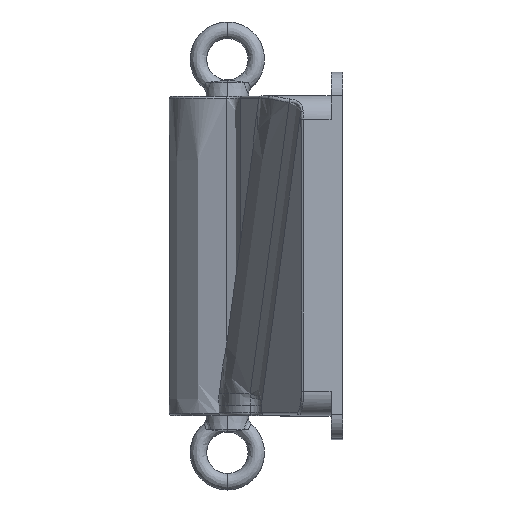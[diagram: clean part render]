
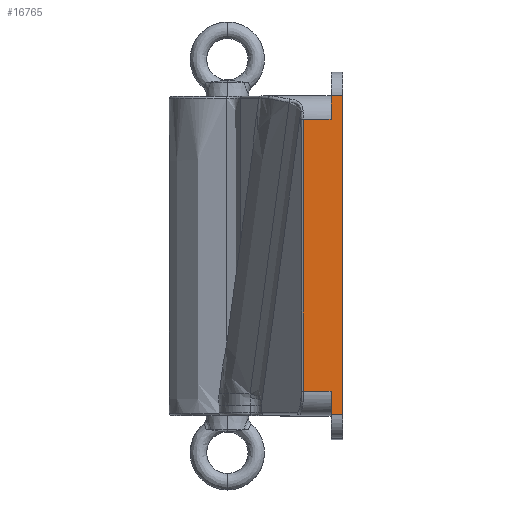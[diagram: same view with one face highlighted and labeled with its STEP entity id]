
A CAD part, top view. The second image highlights one B-rep face of the part: STEP entity #16765.
In plain terms, the highlighted planar face has unit normal (0, 0, 1).
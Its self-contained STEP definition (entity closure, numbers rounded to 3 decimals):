
#16148=CARTESIAN_POINT('Vertex',(-1753.252,390.,325.872)) ;
#16175=CARTESIAN_POINT('Vertex',(-1753.105,160.,325.872)) ;
#16178=CARTESIAN_POINT('Line Origine',(-1753.178,275.,325.872)) ;
#16562=CARTESIAN_POINT('Line Origine',(-1729.792,400.,325.872)) ;
#16566=CARTESIAN_POINT('Vertex',(-1729.792,410.,325.872)) ;
#16568=CARTESIAN_POINT('Vertex',(-1729.792,390.,325.872)) ;
#16654=CARTESIAN_POINT('Line Origine',(-1835.902,390.,325.872)) ;
#16717=CARTESIAN_POINT('Axis2P3D Location',(-1719.792,410.,325.872)) ;
#16722=CARTESIAN_POINT('Line Origine',(-1741.449,160.,325.872)) ;
#16726=CARTESIAN_POINT('Vertex',(-1729.792,160.,325.872)) ;
#16729=CARTESIAN_POINT('Line Origine',(-1729.792,150.,325.872)) ;
#16733=CARTESIAN_POINT('Vertex',(-1729.792,140.,325.872)) ;
#16736=CARTESIAN_POINT('Line Origine',(-1724.792,140.,325.872)) ;
#16740=CARTESIAN_POINT('Vertex',(-1719.792,140.,325.872)) ;
#16743=CARTESIAN_POINT('Line Origine',(-1719.792,275.,325.872)) ;
#16747=CARTESIAN_POINT('Vertex',(-1719.792,410.,325.872)) ;
#16750=CARTESIAN_POINT('Line Origine',(-1724.792,410.,325.872)) ;
#16180=VECTOR('Line Direction',#16179,1.) ;
#16564=VECTOR('Line Direction',#16563,1.) ;
#16656=VECTOR('Line Direction',#16655,1.) ;
#16724=VECTOR('Line Direction',#16723,1.) ;
#16731=VECTOR('Line Direction',#16730,1.) ;
#16738=VECTOR('Line Direction',#16737,1.) ;
#16745=VECTOR('Line Direction',#16744,1.) ;
#16752=VECTOR('Line Direction',#16751,1.) ;
#16179=DIRECTION('Vector Direction',(0.001,-1.,0.)) ;
#16563=DIRECTION('Vector Direction',(0.,-1.,0.)) ;
#16655=DIRECTION('Vector Direction',(-1.,0.,0.)) ;
#16718=DIRECTION('Axis2P3D Direction',(0.,-0.,-1.)) ;
#16719=DIRECTION('Axis2P3D XDirection',(0.,-1.,0.)) ;
#16723=DIRECTION('Vector Direction',(-1.,0.,0.)) ;
#16730=DIRECTION('Vector Direction',(0.,-1.,0.)) ;
#16737=DIRECTION('Vector Direction',(-1.,0.,0.)) ;
#16744=DIRECTION('Vector Direction',(0.,-1.,0.)) ;
#16751=DIRECTION('Vector Direction',(-1.,0.,0.)) ;
#16720=AXIS2_PLACEMENT_3D('Plane Axis2P3D',#16717,#16718,#16719) ;
#16181=LINE('Line',#16178,#16180) ;
#16565=LINE('Line',#16562,#16564) ;
#16657=LINE('Line',#16654,#16656) ;
#16725=LINE('Line',#16722,#16724) ;
#16732=LINE('Line',#16729,#16731) ;
#16739=LINE('Line',#16736,#16738) ;
#16746=LINE('Line',#16743,#16745) ;
#16753=LINE('Line',#16750,#16752) ;
#16721=PLANE('',#16720) ;
#16182=EDGE_CURVE('',#16149,#16176,#16181,.T.) ;
#16570=EDGE_CURVE('',#16567,#16569,#16565,.T.) ;
#16658=EDGE_CURVE('',#16569,#16149,#16657,.T.) ;
#16728=EDGE_CURVE('',#16727,#16176,#16725,.T.) ;
#16735=EDGE_CURVE('',#16727,#16734,#16732,.T.) ;
#16742=EDGE_CURVE('',#16741,#16734,#16739,.T.) ;
#16749=EDGE_CURVE('',#16741,#16748,#16746,.F.) ;
#16754=EDGE_CURVE('',#16748,#16567,#16753,.T.) ;
#16756=ORIENTED_EDGE('',*,*,#16182,.T.) ;
#16757=ORIENTED_EDGE('',*,*,#16728,.F.) ;
#16758=ORIENTED_EDGE('',*,*,#16735,.T.) ;
#16759=ORIENTED_EDGE('',*,*,#16742,.F.) ;
#16760=ORIENTED_EDGE('',*,*,#16749,.T.) ;
#16761=ORIENTED_EDGE('',*,*,#16754,.T.) ;
#16762=ORIENTED_EDGE('',*,*,#16570,.T.) ;
#16763=ORIENTED_EDGE('',*,*,#16658,.T.) ;
#16755=EDGE_LOOP('',(#16756,#16757,#16758,#16759,#16760,#16761,#16762,#16763)) ;
#16149=VERTEX_POINT('',#16148) ;
#16176=VERTEX_POINT('',#16175) ;
#16567=VERTEX_POINT('',#16566) ;
#16569=VERTEX_POINT('',#16568) ;
#16727=VERTEX_POINT('',#16726) ;
#16734=VERTEX_POINT('',#16733) ;
#16741=VERTEX_POINT('',#16740) ;
#16748=VERTEX_POINT('',#16747) ;
#16765=ADVANCED_FACE('\X2\0423041D041C0422\X0\.01-077.202.061.001 \X2\043C043004420440043804460430\X0\  \X2\0430043B044E043C0438043D0438043504320430044F\X0\',(#16764),#16721,.F.) ;
#16764=FACE_OUTER_BOUND('',#16755,.T.) ;
